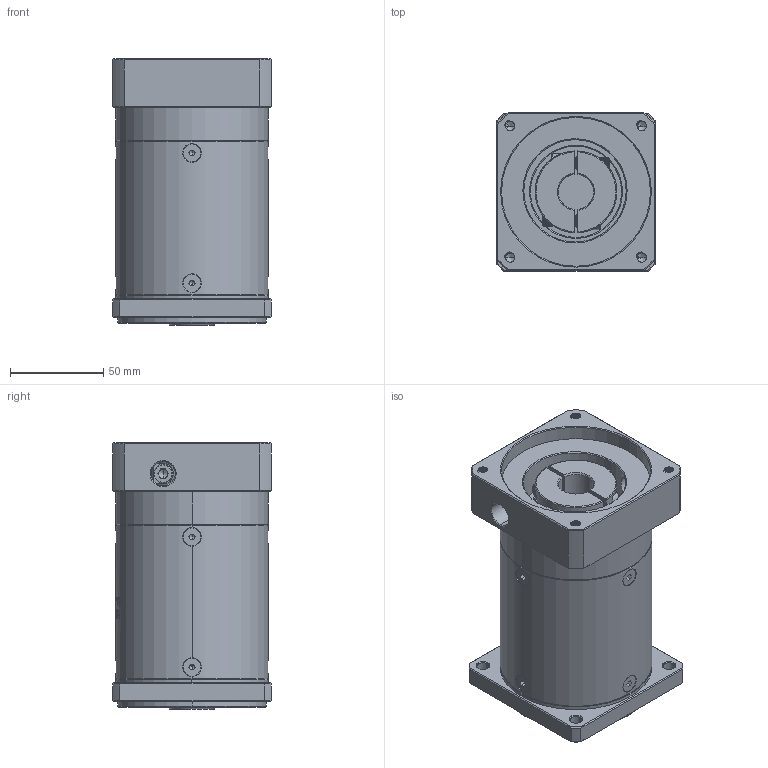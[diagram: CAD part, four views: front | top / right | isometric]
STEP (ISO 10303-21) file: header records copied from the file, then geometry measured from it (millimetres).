
FILE_DESCRIPTION (( 'STEP AP214' ), '1' );
FILE_NAME ('ZF080-K15-L3-P2-19-80-100-M6.step', '2023-08-19T05:37:35', ( '' ), ( '' ), 'SwSTEP 2.0', 'SolidWorks 2016', '' );
FILE_SCHEMA (( 'AUTOMOTIVE_DESIGN' ));
Length unit declared in the file: millimetre
Products named in the file (1): ZF080-K15-L3-P2-19-80-100-M6
Bounding box: 85 x 85 x 143 mm (x, y, z)
Volume: 723327.6 mm3; surface area: 97748.1 mm2
Topology: 13 solids, 13 shells, 2208 faces, 5787 edges, 3677 vertices
Faces by surface type: plane 1066, bspline 390, cylinder 384, cone 333, torus 35
Entity records: 117230 total; most frequent: CARTESIAN_POINT 43599, ORIENTED_EDGE 11518, DIRECTION 8520, EDGE_CURVE 5759, VERTEX_POINT 3677, VECTOR 3072, LINE 3072, AXIS2_PLACEMENT_3D 2724
